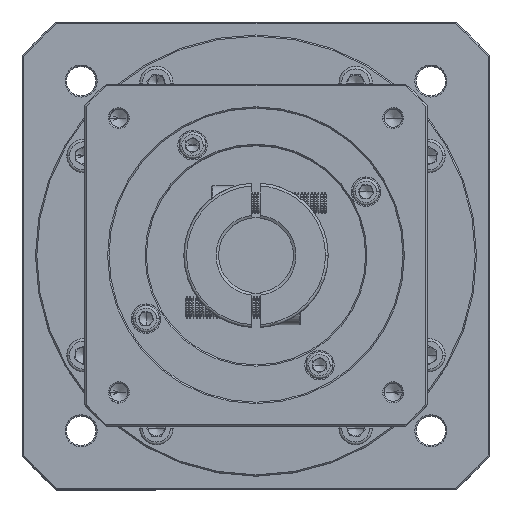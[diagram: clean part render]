
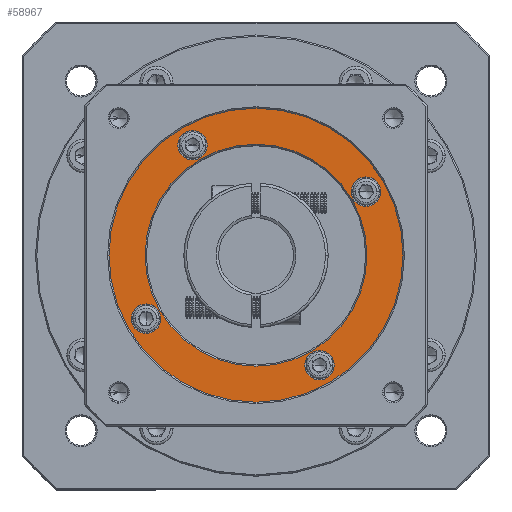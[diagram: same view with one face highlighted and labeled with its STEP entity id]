
A CAD part, top view. The second image highlights one B-rep face of the part: STEP entity #58967.
In plain terms, the highlighted planar face has unit normal (0, 0, 1).
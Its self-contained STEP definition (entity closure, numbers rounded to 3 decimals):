
#3070 = CARTESIAN_POINT ( 'NONE',  ( 78.613, 137.87, -21.482 ) ) ;
#5532 = CARTESIAN_POINT ( 'NONE',  ( 107.863, 96.733, -21.482 ) ) ;
#5972 = DIRECTION ( 'NONE',  ( 0., 0., 1. ) ) ;
#6536 = EDGE_CURVE ( 'NONE', #92614, #54400, #36764, .T. ) ;
#6606 = CIRCLE ( 'NONE', #63727, 5.5 ) ;
#7490 = CARTESIAN_POINT ( 'NONE',  ( 114.249, 161.62, -21.482 ) ) ;
#8196 = DIRECTION ( 'NONE',  ( 0., 0., -1. ) ) ;
#8676 = DIRECTION ( 'NONE',  ( 0., 0., -1. ) ) ;
#9553 = VERTEX_POINT ( 'NONE', #25322 ) ;
#13431 = CIRCLE ( 'NONE', #26781, 41.5 ) ;
#14474 = CARTESIAN_POINT ( 'NONE',  ( 60.363, 179.006, -21.482 ) ) ;
#14581 = DIRECTION ( 'NONE',  ( 0., 0., -1. ) ) ;
#16102 = EDGE_CURVE ( 'NONE', #26380, #82893, #104843, .T. ) ;
#16253 = CARTESIAN_POINT ( 'NONE',  ( 102.363, 96.733, -21.482 ) ) ;
#16831 = AXIS2_PLACEMENT_3D ( 'NONE', #3070, #60483, #77137 ) ;
#17708 = CARTESIAN_POINT ( 'NONE',  ( 37.477, 114.12, -21.482 ) ) ;
#18277 = ORIENTED_EDGE ( 'NONE', *, *, #61873, .T. ) ;
#20069 = CARTESIAN_POINT ( 'NONE',  ( 119.749, 161.62, -21.482 ) ) ;
#23419 = VERTEX_POINT ( 'NONE', #85403 ) ;
#24003 = CARTESIAN_POINT ( 'NONE',  ( 125.249, 161.62, -21.482 ) ) ;
#25322 = CARTESIAN_POINT ( 'NONE',  ( 133.613, 137.87, -21.482 ) ) ;
#26314 = FACE_OUTER_BOUND ( 'NONE', #74833, .T. ) ;
#26380 = VERTEX_POINT ( 'NONE', #72512 ) ;
#26781 = AXIS2_PLACEMENT_3D ( 'NONE', #48603, #31587, #41018 ) ;
#28001 = EDGE_CURVE ( 'NONE', #54400, #92614, #66165, .T. ) ;
#29419 = DIRECTION ( 'NONE',  ( 1., 0., 0. ) ) ;
#30702 = CARTESIAN_POINT ( 'NONE',  ( 37.113, 137.87, -21.482 ) ) ;
#30938 = CARTESIAN_POINT ( 'NONE',  ( 31.977, 114.12, -21.482 ) ) ;
#31302 = AXIS2_PLACEMENT_3D ( 'NONE', #103282, #86724, #53800 ) ;
#31587 = DIRECTION ( 'NONE',  ( 0., 0., -1. ) ) ;
#33431 = EDGE_LOOP ( 'NONE', ( #72624, #37755 ) ) ;
#33880 = CIRCLE ( 'NONE', #95346, 5.5 ) ;
#35675 = AXIS2_PLACEMENT_3D ( 'NONE', #104887, #102500, #82947 ) ;
#36764 = CIRCLE ( 'NONE', #54733, 5.5 ) ;
#37040 = AXIS2_PLACEMENT_3D ( 'NONE', #57105, #14581, #73762 ) ;
#37472 = EDGE_LOOP ( 'NONE', ( #59880, #18277 ) ) ;
#37755 = ORIENTED_EDGE ( 'NONE', *, *, #75662, .T. ) ;
#37829 = CIRCLE ( 'NONE', #55796, 55. ) ;
#37970 = ORIENTED_EDGE ( 'NONE', *, *, #88818, .T. ) ;
#38752 = EDGE_CURVE ( 'NONE', #69862, #55461, #75735, .T. ) ;
#40361 = DIRECTION ( 'NONE',  ( 0., 0., -1. ) ) ;
#40634 = EDGE_CURVE ( 'NONE', #102540, #23419, #105869, .T. ) ;
#41018 = DIRECTION ( 'NONE',  ( 1., 0., 0. ) ) ;
#41019 = CARTESIAN_POINT ( 'NONE',  ( 54.863, 179.006, -21.482 ) ) ;
#43950 = CARTESIAN_POINT ( 'NONE',  ( 23.613, 137.87, -21.482 ) ) ;
#44188 = PLANE ( 'NONE',  #16831 ) ;
#44871 = AXIS2_PLACEMENT_3D ( 'NONE', #106823, #40361, #74366 ) ;
#45227 = EDGE_LOOP ( 'NONE', ( #53178, #75593 ) ) ;
#45461 = VERTEX_POINT ( 'NONE', #43950 ) ;
#46921 = FACE_BOUND ( 'NONE', #33431, .T. ) ;
#46990 = AXIS2_PLACEMENT_3D ( 'NONE', #16253, #8676, #50160 ) ;
#47818 = DIRECTION ( 'NONE',  ( 1., 0., 0. ) ) ;
#48603 = CARTESIAN_POINT ( 'NONE',  ( 78.613, 137.87, -21.482 ) ) ;
#50160 = DIRECTION ( 'NONE',  ( 1., 0., 0. ) ) ;
#51440 = ORIENTED_EDGE ( 'NONE', *, *, #104185, .T. ) ;
#51504 = DIRECTION ( 'NONE',  ( 0., 0., -1. ) ) ;
#52149 = FACE_BOUND ( 'NONE', #45227, .T. ) ;
#53178 = ORIENTED_EDGE ( 'NONE', *, *, #74749, .T. ) ;
#53800 = DIRECTION ( 'NONE',  ( 1., 0., 0. ) ) ;
#54400 = VERTEX_POINT ( 'NONE', #82826 ) ;
#54733 = AXIS2_PLACEMENT_3D ( 'NONE', #17708, #67209, #101117 ) ;
#55461 = VERTEX_POINT ( 'NONE', #7490 ) ;
#55796 = AXIS2_PLACEMENT_3D ( 'NONE', #105584, #5972, #47818 ) ;
#56036 = AXIS2_PLACEMENT_3D ( 'NONE', #20069, #78260, #77911 ) ;
#57105 = CARTESIAN_POINT ( 'NONE',  ( 102.363, 96.733, -21.482 ) ) ;
#58101 = AXIS2_PLACEMENT_3D ( 'NONE', #63779, #80070, #29419 ) ;
#58967 = ADVANCED_FACE ( 'NONE', ( #26314, #52149, #46921, #93534, #71543, #101232 ), #44188, .T. ) ;
#59880 = ORIENTED_EDGE ( 'NONE', *, *, #40634, .T. ) ;
#60483 = DIRECTION ( 'NONE',  ( 0., 0., 1. ) ) ;
#61873 = EDGE_CURVE ( 'NONE', #23419, #102540, #33880, .T. ) ;
#62839 = EDGE_LOOP ( 'NONE', ( #67261, #92938 ) ) ;
#63727 = AXIS2_PLACEMENT_3D ( 'NONE', #100965, #51504, #94861 ) ;
#63779 = CARTESIAN_POINT ( 'NONE',  ( 78.613, 137.87, -21.482 ) ) ;
#65968 = DIRECTION ( 'NONE',  ( 1., 0., 0. ) ) ;
#66043 = ORIENTED_EDGE ( 'NONE', *, *, #16102, .T. ) ;
#66165 = CIRCLE ( 'NONE', #44871, 5.5 ) ;
#66308 = CIRCLE ( 'NONE', #58101, 41.5 ) ;
#67209 = DIRECTION ( 'NONE',  ( 0., 0., -1. ) ) ;
#67261 = ORIENTED_EDGE ( 'NONE', *, *, #28001, .T. ) ;
#69862 = VERTEX_POINT ( 'NONE', #24003 ) ;
#70114 = VERTEX_POINT ( 'NONE', #70543 ) ;
#70543 = CARTESIAN_POINT ( 'NONE',  ( 120.113, 137.87, -21.482 ) ) ;
#71543 = FACE_BOUND ( 'NONE', #37472, .T. ) ;
#72512 = CARTESIAN_POINT ( 'NONE',  ( 96.863, 96.733, -21.482 ) ) ;
#72624 = ORIENTED_EDGE ( 'NONE', *, *, #38752, .T. ) ;
#73762 = DIRECTION ( 'NONE',  ( 1., 0., 0. ) ) ;
#74366 = DIRECTION ( 'NONE',  ( 1., 0., 0. ) ) ;
#74749 = EDGE_CURVE ( 'NONE', #70114, #82356, #13431, .T. ) ;
#74833 = EDGE_LOOP ( 'NONE', ( #91933, #51440 ) ) ;
#75593 = ORIENTED_EDGE ( 'NONE', *, *, #81684, .T. ) ;
#75662 = EDGE_CURVE ( 'NONE', #55461, #69862, #6606, .T. ) ;
#75735 = CIRCLE ( 'NONE', #56036, 5.5 ) ;
#77137 = DIRECTION ( 'NONE',  ( 1., 0., 0. ) ) ;
#77911 = DIRECTION ( 'NONE',  ( 1., 0., 0. ) ) ;
#78260 = DIRECTION ( 'NONE',  ( 0., 0., -1. ) ) ;
#78860 = CIRCLE ( 'NONE', #35675, 55. ) ;
#80070 = DIRECTION ( 'NONE',  ( 0., 0., -1. ) ) ;
#81684 = EDGE_CURVE ( 'NONE', #82356, #70114, #66308, .T. ) ;
#82356 = VERTEX_POINT ( 'NONE', #30702 ) ;
#82826 = CARTESIAN_POINT ( 'NONE',  ( 42.977, 114.12, -21.482 ) ) ;
#82893 = VERTEX_POINT ( 'NONE', #5532 ) ;
#82947 = DIRECTION ( 'NONE',  ( 1., 0., 0. ) ) ;
#85403 = CARTESIAN_POINT ( 'NONE',  ( 49.363, 179.006, -21.482 ) ) ;
#86550 = EDGE_LOOP ( 'NONE', ( #37970, #66043 ) ) ;
#86724 = DIRECTION ( 'NONE',  ( 0., 0., -1. ) ) ;
#87354 = EDGE_CURVE ( 'NONE', #9553, #45461, #78860, .T. ) ;
#88818 = EDGE_CURVE ( 'NONE', #82893, #26380, #96486, .T. ) ;
#91933 = ORIENTED_EDGE ( 'NONE', *, *, #87354, .T. ) ;
#92614 = VERTEX_POINT ( 'NONE', #30938 ) ;
#92938 = ORIENTED_EDGE ( 'NONE', *, *, #6536, .T. ) ;
#93534 = FACE_BOUND ( 'NONE', #86550, .T. ) ;
#94861 = DIRECTION ( 'NONE',  ( 1., 0., 0. ) ) ;
#95346 = AXIS2_PLACEMENT_3D ( 'NONE', #41019, #8196, #65968 ) ;
#96486 = CIRCLE ( 'NONE', #46990, 5.5 ) ;
#100965 = CARTESIAN_POINT ( 'NONE',  ( 119.749, 161.62, -21.482 ) ) ;
#101117 = DIRECTION ( 'NONE',  ( 1., 0., 0. ) ) ;
#101232 = FACE_BOUND ( 'NONE', #62839, .T. ) ;
#102500 = DIRECTION ( 'NONE',  ( 0., 0., 1. ) ) ;
#102540 = VERTEX_POINT ( 'NONE', #14474 ) ;
#103282 = CARTESIAN_POINT ( 'NONE',  ( 54.863, 179.006, -21.482 ) ) ;
#104185 = EDGE_CURVE ( 'NONE', #45461, #9553, #37829, .T. ) ;
#104843 = CIRCLE ( 'NONE', #37040, 5.5 ) ;
#104887 = CARTESIAN_POINT ( 'NONE',  ( 78.613, 137.87, -21.482 ) ) ;
#105584 = CARTESIAN_POINT ( 'NONE',  ( 78.613, 137.87, -21.482 ) ) ;
#105869 = CIRCLE ( 'NONE', #31302, 5.5 ) ;
#106823 = CARTESIAN_POINT ( 'NONE',  ( 37.477, 114.12, -21.482 ) ) ;
